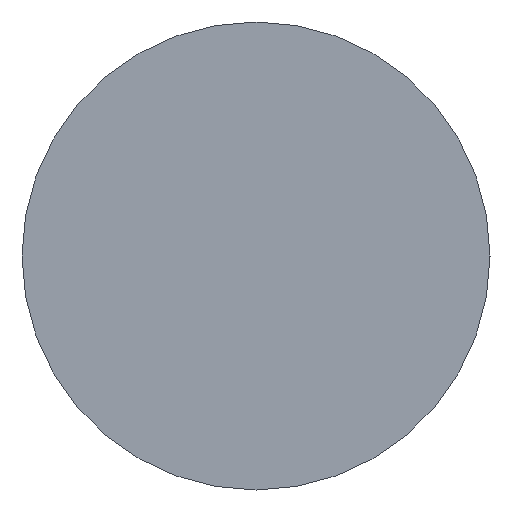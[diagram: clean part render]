
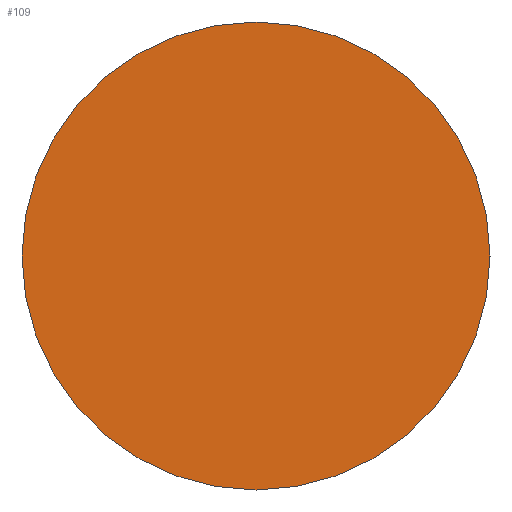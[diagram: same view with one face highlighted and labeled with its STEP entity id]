
A CAD part, left-side view. The second image highlights one B-rep face of the part: STEP entity #109.
In plain terms, the highlighted planar face has unit normal (-1, 0, 0).
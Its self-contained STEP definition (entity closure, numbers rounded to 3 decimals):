
#31 = CYLINDRICAL_SURFACE('',#32,0.75);
#32 = AXIS2_PLACEMENT_3D('',#33,#34,#35);
#33 = CARTESIAN_POINT('',(28.9,-2.75,-11.45));
#34 = DIRECTION('',(1.,0.,0.));
#35 = DIRECTION('',(-0.,0.,1.));
#56 = VERTEX_POINT('',#57);
#57 = CARTESIAN_POINT('',(28.9,-2.75,-10.7));
#78 = EDGE_CURVE('',#56,#56,#79,.T.);
#79 = SURFACE_CURVE('',#80,(#85,#92),.PCURVE_S1.);
#80 = CIRCLE('',#81,0.75);
#81 = AXIS2_PLACEMENT_3D('',#82,#83,#84);
#82 = CARTESIAN_POINT('',(28.9,-2.75,-11.45));
#83 = DIRECTION('',(1.,0.,0.));
#84 = DIRECTION('',(-0.,0.,1.));
#85 = PCURVE('',#31,#86);
#86 = DEFINITIONAL_REPRESENTATION('',(#87),#91);
#87 = LINE('',#88,#89);
#88 = CARTESIAN_POINT('',(0.,0.));
#89 = VECTOR('',#90,1.);
#90 = DIRECTION('',(1.,0.));
#91 = ( GEOMETRIC_REPRESENTATION_CONTEXT(2) 
PARAMETRIC_REPRESENTATION_CONTEXT() REPRESENTATION_CONTEXT('2D SPACE',''
  ) );
#92 = PCURVE('',#93,#98);
#93 = PLANE('',#94);
#94 = AXIS2_PLACEMENT_3D('',#95,#96,#97);
#95 = CARTESIAN_POINT('',(28.9,-2.75,-11.45));
#96 = DIRECTION('',(1.,0.,0.));
#97 = DIRECTION('',(-0.,0.,1.));
#98 = DEFINITIONAL_REPRESENTATION('',(#99),#103);
#99 = CIRCLE('',#100,0.75);
#100 = AXIS2_PLACEMENT_2D('',#101,#102);
#101 = CARTESIAN_POINT('',(0.,0.));
#102 = DIRECTION('',(1.,0.));
#103 = ( GEOMETRIC_REPRESENTATION_CONTEXT(2) 
PARAMETRIC_REPRESENTATION_CONTEXT() REPRESENTATION_CONTEXT('2D SPACE',''
  ) );
#109 = ADVANCED_FACE('',(#110),#93,.F.);
#110 = FACE_BOUND('',#111,.T.);
#111 = EDGE_LOOP('',(#112));
#112 = ORIENTED_EDGE('',*,*,#78,.F.);
